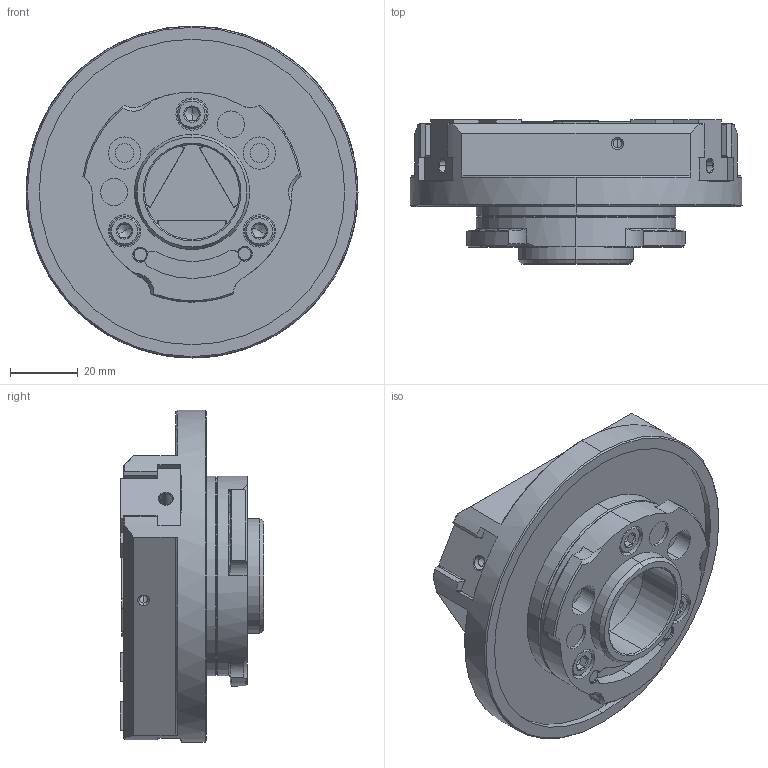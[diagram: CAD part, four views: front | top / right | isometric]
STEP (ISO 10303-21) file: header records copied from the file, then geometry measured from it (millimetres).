
FILE_DESCRIPTION (( 'STEP AP214' ), '1' );
FILE_NAME ('HP-QG30810-Assy-61G841489-20241129-HCL.STEP', '2024-11-29T00:51:40', ( '' ), ( '' ), 'SwSTEP 2.0', 'SolidWorks 2022', '' );
FILE_SCHEMA (( 'AUTOMOTIVE_DESIGN' ));
Length unit declared in the file: millimetre
Products named in the file (8): BOLT^HP-QG30810; RING^HP-QG30810; S-SARA^HP-QG30810; MASTER JAW^HP-QG30810; COVER^HP-QG30810; HEIKOU PIN^HP-QG30810; BODY^HP-QG30810; HP-QG30810-Assy-61G841489-20241129-HCL
Assembly tree (14 placements, depth 2):
  HP-QG30810-Assy-61G841489-20241129-HCL
    BODY^HP-QG30810
    MASTER JAW^HP-QG30810  x3
    RING^HP-QG30810
    COVER^HP-QG30810
    BOLT^HP-QG30810  x3
    S-SARA^HP-QG30810  x3
    HEIKOU PIN^HP-QG30810  x2
Bounding box: 98 x 42.5 x 98 mm (x, y, z)
Volume: 146981.1 mm3; surface area: 53920.2 mm2
Topology: 14 solids, 14 shells, 1682 faces, 4624 edges, 3021 vertices
Faces by surface type: plane 1143, cylinder 207, bspline 162, cone 161, torus 9
Entity records: 54153 total; most frequent: CARTESIAN_POINT 17148, ORIENTED_EDGE 8148, DIRECTION 6629, EDGE_CURVE 4074, VECTOR 3233, LINE 3233, VERTEX_POINT 2693, AXIS2_PLACEMENT_3D 1698
